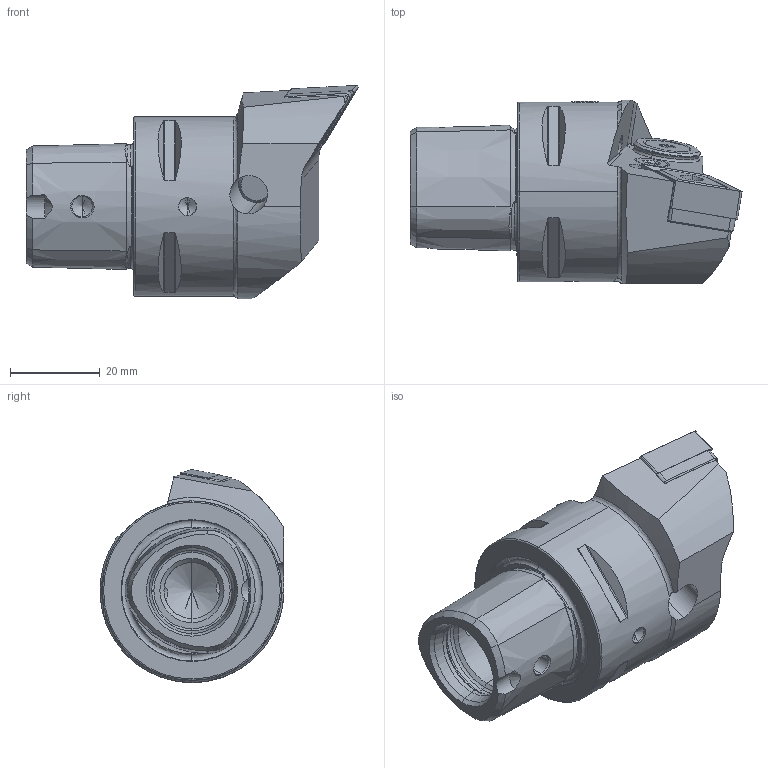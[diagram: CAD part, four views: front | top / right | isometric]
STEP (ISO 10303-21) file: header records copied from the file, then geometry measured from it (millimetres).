
FILE_DESCRIPTION (( 'STEP AP214' ), '1' );
FILE_NAME ('PS4.PDF.LJA.050-HP.STEP', '2020-09-11T11:56:31', ( '' ), ( '' ), 'SwSTEP 2.0', 'SolidWorks 2017', '' );
FILE_SCHEMA (( 'AUTOMOTIVE_DESIGN' ));
Length unit declared in the file: millimetre
Products named in the file (13): CHP-ER1.015.006; WCD-ER4.101.017_A; DNMG150604; PS4.PDF.LJA.050-HP; WDF-ER2.101.003_A; CHP-ER1.015.006_A; PS4-PDF.LJA.050-HP_C; WDF-ER3.101.000_A; DIN 3771 - 13x1; DIN 7991 - M5x15; ISO 8752 2x8; WCD-ER1.101.000; CHP-ER1.008.011_A
Assembly tree (12 placements, depth 3):
  PS4.PDF.LJA.050-HP
    PS4-PDF.LJA.050-HP_C
    WDF-ER3.101.000_A
    WCD-ER4.101.017_A
    WDF-ER2.101.003_A
    DNMG150604
    WCD-ER1.101.000
    CHP-ER1.008.011_A
    ISO 8752 2x8
    CHP-ER1.015.006
      CHP-ER1.015.006_A
      DIN 3771 - 13x1
      DIN 7991 - M5x15
Bounding box: 74 x 40.99 x 47.5 mm (x, y, z)
Volume: 51232.6 mm3; surface area: 18360.2 mm2
Topology: 11 solids, 11 shells, 454 faces, 1094 edges, 649 vertices
Faces by surface type: cone 137, plane 131, cylinder 113, torus 61, bspline 12
Entity records: 14988 total; most frequent: CARTESIAN_POINT 4100, DIRECTION 2176, ORIENTED_EDGE 2140, EDGE_CURVE 1070, AXIS2_PLACEMENT_3D 867, VERTEX_POINT 649, EDGE_LOOP 485, FACE_OUTER_BOUND 454
